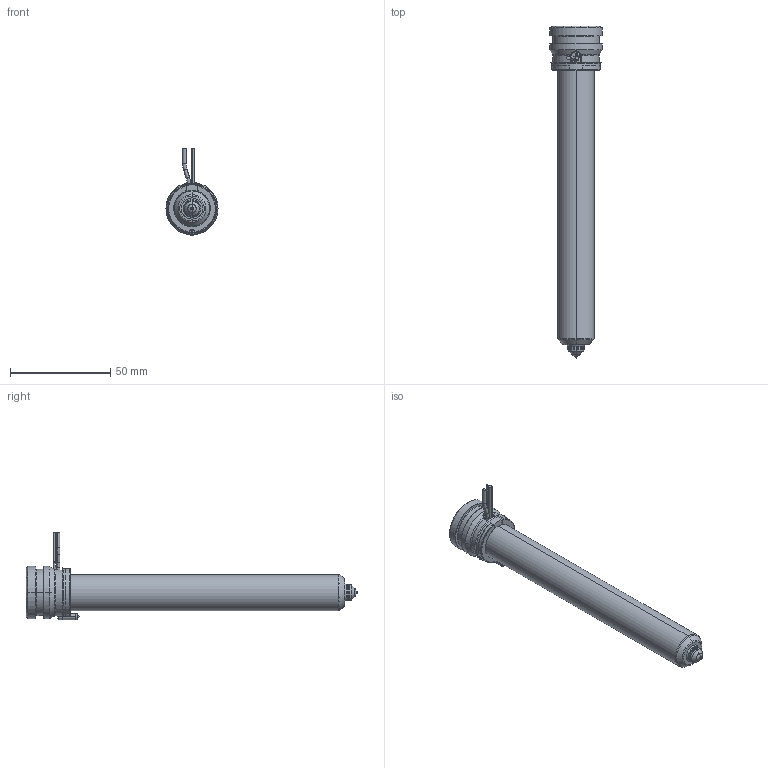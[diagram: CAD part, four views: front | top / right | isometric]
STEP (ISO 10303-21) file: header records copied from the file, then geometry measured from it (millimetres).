
FILE_DESCRIPTION((''),'2;1');
FILE_NAME('MPN-08-24-VX8-146-A','2026-02-05T12:00:22',('UPTIO'),('Thermoplay S.p.A.'),'CREO PARAMETRIC BY PTC INC, 2023494','CREO PARAMETRIC BY PTC INC, 2023494','');
FILE_SCHEMA(('CONFIG_CONTROL_DESIGN','SHAPE_APPEARANCE_LAYERS_GROUPS'));
Length unit declared in the file: millimetre
Products named in the file (1): MPN-08-24-VX8-146-A
Bounding box: 26 x 165.5 x 43.5 mm (x, y, z)
Volume: 31167.8 mm3; surface area: 40514.2 mm2
Topology: 2 solids, 3 shells, 545 faces, 1438 edges, 891 vertices
Faces by surface type: cylinder 180, plane 143, bspline 82, cone 62, torus 62, sphere 10, extrusion 6
Entity records: 29293 total; most frequent: CARTESIAN_POINT 13054, ORIENTED_EDGE 2860, DIRECTION 2578, EDGE_CURVE 1430, AXIS2_PLACEMENT_3D 1007, VERTEX_POINT 891, EDGE_LOOP 573, VECTOR 564
